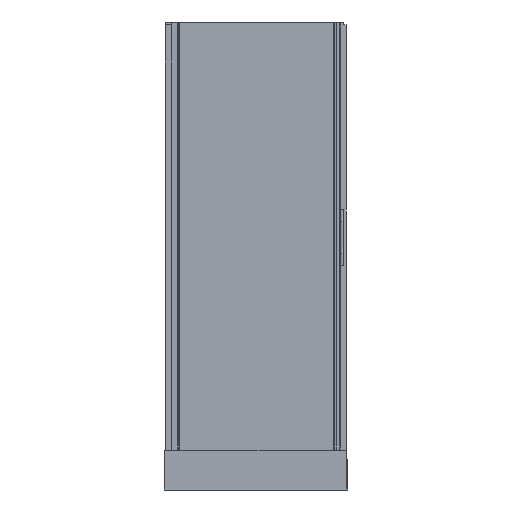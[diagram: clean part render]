
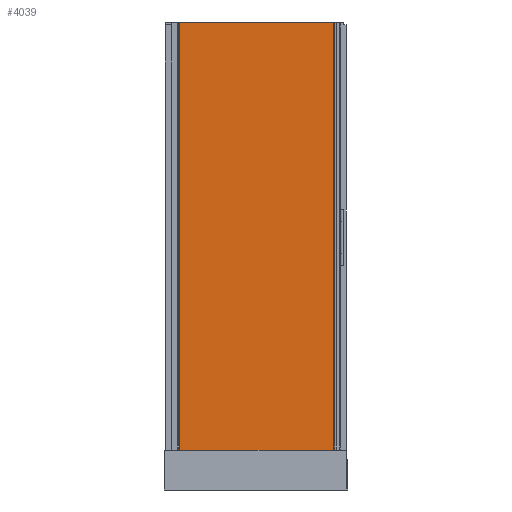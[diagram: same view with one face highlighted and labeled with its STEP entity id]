
A CAD part, left-side view. The second image highlights one B-rep face of the part: STEP entity #4039.
In plain terms, the highlighted planar face has unit normal (-1, 0, 0).
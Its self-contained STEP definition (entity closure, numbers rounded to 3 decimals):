
#3960=CARTESIAN_POINT('',(-1163.29,-58.545,164.561));
#3961=VERTEX_POINT('',#3960);
#3968=CARTESIAN_POINT('',(-1163.29,-58.545,2061.561));
#3969=VERTEX_POINT('',#3968);
#3970=CARTESIAN_POINT('',(-1163.29,-58.545,2061.561));
#3971=DIRECTION('',(0.0,0.0,-1.0));
#3972=VECTOR('',#3971,1897.0);
#3973=LINE('',#3970,#3972);
#3974=EDGE_CURVE('',#3969,#3961,#3973,.T.);
#3999=CARTESIAN_POINT('',(-1163.29,-751.545,164.561));
#4000=VERTEX_POINT('',#3999);
#4007=CARTESIAN_POINT('',(-1163.29,-58.545,164.561));
#4008=DIRECTION('',(0.0,-1.0,0.0));
#4009=VECTOR('',#4008,693.);
#4010=LINE('',#4007,#4009);
#4011=EDGE_CURVE('',#3961,#4000,#4010,.T.);
#4016=CARTESIAN_POINT('',(-1163.29,-28.895,69.711));
#4017=DIRECTION('',(-1.0,0.0,0.0));
#4018=DIRECTION('',(0.0,-1.0,0.0));
#4019=AXIS2_PLACEMENT_3D('',#4016,#4017,#4018);
#4020=PLANE('',#4019);
#4021=CARTESIAN_POINT('',(-1163.29,-751.545,2061.561));
#4022=VERTEX_POINT('',#4021);
#4023=CARTESIAN_POINT('',(-1163.29,-58.545,2061.561));
#4024=DIRECTION('',(0.0,-1.0,0.0));
#4025=VECTOR('',#4024,693.);
#4026=LINE('',#4023,#4025);
#4027=EDGE_CURVE('',#3969,#4022,#4026,.T.);
#4028=ORIENTED_EDGE('',*,*,#4027,.F.);
#4029=ORIENTED_EDGE('',*,*,#3974,.T.);
#4030=ORIENTED_EDGE('',*,*,#4011,.T.);
#4031=CARTESIAN_POINT('',(-1163.29,-751.545,164.561));
#4032=DIRECTION('',(0.0,0.0,1.0));
#4033=VECTOR('',#4032,1897.0);
#4034=LINE('',#4031,#4033);
#4035=EDGE_CURVE('',#4000,#4022,#4034,.T.);
#4036=ORIENTED_EDGE('',*,*,#4035,.T.);
#4037=EDGE_LOOP('',(#4028,#4029,#4030,#4036));
#4038=FACE_OUTER_BOUND('',#4037,.T.);
#4039=ADVANCED_FACE('',(#4038),#4020,.T.);
